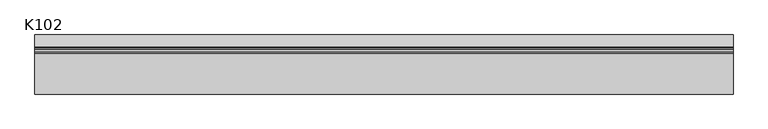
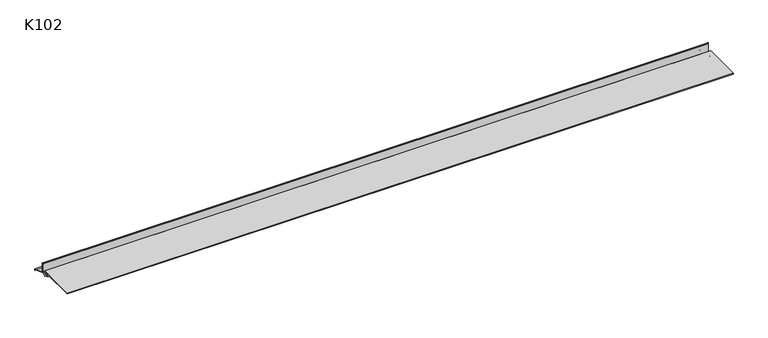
"""IFC4 building model written with IfcOpenShell, lengths in millimetres: proxy geometry, K102 Profil okapowy prosty : K102."""

import ifcopenshell
import ifcopenshell.guid

model = None  # the IFC model being written
_history = None  # IfcOwnerHistory: only IFC2X3 demands one
_inside = {}  # id of a spatial element -> (the spatial element, [elements in it])
_under = {}  # id of a project, library or spatial element -> (it, [spatial elements below it])
_declared = {}  # id of a project -> (the project, [libraries it declares])
_typed = {}  # id of a type object -> (the type object, [elements of that type])
_made_of = {}  # id of a material, layer set ... -> (it, [elements and type objects made of it])


def new_model(schema):
    """Start an empty IFC model of exactly this schema.

    Asked for "IFC4X3", IfcOpenShell would pick the latest addendum, in which some entities
    have other attributes; the version numbers below select the first issue.
    IFC2X3 requires an IfcOwnerHistory on every rooted entity: one is made here for all.
    """
    global model, _history
    if schema == "IFC4X3":
        model = ifcopenshell.file(schema_version=(4, 3, 0, 0))
    else:
        model = ifcopenshell.file(schema=schema)
    _inside.clear()
    _under.clear()
    _declared.clear()
    _typed.clear()
    _made_of.clear()
    _history = None
    if model.schema == "IFC2X3":
        org = make("IfcOrganization", Name="unknown")
        user = make(
            "IfcPersonAndOrganization",
            ThePerson=make("IfcPerson", FamilyName="unknown"),
            TheOrganization=org,
        )
        app = make(
            "IfcApplication",
            ApplicationDeveloper=org,
            Version="unknown",
            ApplicationFullName="unknown",
            ApplicationIdentifier="unknown",
        )
        _history = make(
            "IfcOwnerHistory",
            OwningUser=user,
            OwningApplication=app,
            ChangeAction="ADDED",
            CreationDate=0,
        )
    return model


def make(cls, **values):
    """One entity of the class cls with the attributes given. An attribute that is None is left unset."""
    return model.create_entity(
        cls, **{name: value for name, value in values.items() if value is not None}
    )


def rooted(cls, **values):
    """An entity with a GlobalId (a new one), such as an element, a storey or a relation."""
    return make(cls, GlobalId=ifcopenshell.guid.new(), OwnerHistory=_history, **values)


def si_unit(unit_type, name, prefix=None):
    """IfcSIUnit, for example si_unit("LENGTHUNIT", "METRE", prefix="MILLI")."""
    return make("IfcSIUnit", UnitType=unit_type, Prefix=prefix, Name=name)


def assignment(units):
    """IfcUnitAssignment: the units of a project."""
    return None if units is None else make("IfcUnitAssignment", Units=units)


def point(xyz):
    """IfcCartesianPoint."""
    return None if xyz is None else make("IfcCartesianPoint", Coordinates=xyz)


def direction(xyz):
    """IfcDirection."""
    return None if xyz is None else make("IfcDirection", DirectionRatios=xyz)


def frame(location, z_axis=None, x_axis=None):
    """IfcAxis2Placement3D, a coordinate frame: its origin and axes. An axis left out is left unset."""
    return make(
        "IfcAxis2Placement3D",
        Location=point(location),
        Axis=direction(z_axis),
        RefDirection=direction(x_axis),
    )


def frame_2d(location, x_axis=None):
    """IfcAxis2Placement2D, a coordinate frame in the plane: its origin and x axis."""
    return make(
        "IfcAxis2Placement2D", Location=point(location), RefDirection=direction(x_axis)
    )


def origin():
    """The frame at (0, 0, 0) with its axes left unset."""
    return frame((0.0, 0.0, 0.0))


def place(relative_to, where):
    """IfcLocalPlacement: puts the frame where relative to a parent placement (None: the world)."""
    return make(
        "IfcLocalPlacement", PlacementRelTo=relative_to, RelativePlacement=where
    )


def context(
    kind, dimensions, precision=None, world=None, true_north=None, identifier=None
):
    """IfcGeometricRepresentationContext, for example the 3D "Model" context."""
    return make(
        "IfcGeometricRepresentationContext",
        ContextIdentifier=identifier,
        ContextType=kind,
        CoordinateSpaceDimension=dimensions,
        Precision=precision,
        WorldCoordinateSystem=world,
        TrueNorth=true_north,
    )


def project(units=None, contexts=None):
    """IfcProject with its units and contexts."""
    return rooted(
        "IfcProject",
        Name="project",
        RepresentationContexts=contexts,
        UnitsInContext=assignment(units),
    )


def spatial(cls, under=None, at=None, **own):
    """A site, building, storey or space (cls), placed at a placement, below another one or the project."""
    s = rooted(cls, ObjectPlacement=at, **own)
    if under is not None:
        _under.setdefault(under.id(), (under, []))[1].append(s)
    return s


def polyline(points):
    """IfcPolyline through the points."""
    return make("IfcPolyline", Points=[point(p) for p in points])


def circle_curve(where, radius):
    """IfcCircle in the frame where."""
    return make("IfcCircle", Position=where, Radius=radius)


def trimmed(basis, trim1, trim2, sense, master):
    """IfcTrimmedCurve: the piece of a basis curve between two trims."""
    return make(
        "IfcTrimmedCurve",
        BasisCurve=basis,
        Trim1=trim1,
        Trim2=trim2,
        SenseAgreement=sense,
        MasterRepresentation=master,
    )


def segment(curve, same_sense, transition):
    """IfcCompositeCurveSegment."""
    return make(
        "IfcCompositeCurveSegment",
        Transition=transition,
        SameSense=same_sense,
        ParentCurve=curve,
    )


def composite_curve(segments, self_intersect=None):
    """IfcCompositeCurve: segments joined end to end."""
    return make("IfcCompositeCurve", Segments=segments, SelfIntersect=self_intersect)


def outline(outer, holes=None, kind="AREA"):
    """IfcArbitraryClosedProfileDef: a profile drawn as a closed curve; with holes, ...WithVoids."""
    if holes is None:
        return make("IfcArbitraryClosedProfileDef", ProfileType=kind, OuterCurve=outer)
    return make(
        "IfcArbitraryProfileDefWithVoids",
        ProfileType=kind,
        OuterCurve=outer,
        InnerCurves=holes,
    )


def extrude(swept, where, along, depth):
    """IfcExtrudedAreaSolid: the profile swept, set in the frame where, extruded along a direction by depth."""
    return make(
        "IfcExtrudedAreaSolid",
        SweptArea=swept,
        Position=where,
        ExtrudedDirection=direction(along),
        Depth=depth,
    )


def shape(context_of_items, identifier, shape_type, items):
    """IfcShapeRepresentation: the items that make up one representation, for example the "Body"."""
    return make(
        "IfcShapeRepresentation",
        ContextOfItems=context_of_items,
        RepresentationIdentifier=identifier,
        RepresentationType=shape_type,
        Items=items,
    )


def source(mapping_origin, context_of_items, identifier, shape_type, items):
    """IfcRepresentationMap: a shape defined once, which mapped items show again and again."""
    return make(
        "IfcRepresentationMap",
        MappingOrigin=mapping_origin,
        MappedRepresentation=shape(context_of_items, identifier, shape_type, items),
    )


def transform(
    local_origin,
    x_axis=None,
    y_axis=None,
    z_axis=None,
    scale=None,
    scale2=None,
    scale3=None,
    uniform=True,
):
    """IfcCartesianTransformationOperator3D, or its non-uniform kind. x_axis, y_axis, z_axis: its Axis1, 2, 3."""
    if uniform:
        return make(
            "IfcCartesianTransformationOperator3D",
            Axis1=direction(x_axis),
            Axis2=direction(y_axis),
            LocalOrigin=point(local_origin),
            Scale=scale,
            Axis3=direction(z_axis),
        )
    return make(
        "IfcCartesianTransformationOperator3DnonUniform",
        Axis1=direction(x_axis),
        Axis2=direction(y_axis),
        LocalOrigin=point(local_origin),
        Scale=scale,
        Axis3=direction(z_axis),
        Scale2=scale2,
        Scale3=scale3,
    )


def mapped(mapping_source, mapping_target):
    """IfcMappedItem: shows the shape of a source again, moved by a transform."""
    return make(
        "IfcMappedItem", MappingSource=mapping_source, MappingTarget=mapping_target
    )


def made_of(thing, what):
    """Note that an element or type object is made of a material, layer set ...; save() writes the relation."""
    if what is not None:
        _made_of.setdefault(what.id(), (what, []))[1].append(thing)
    return thing


def element(
    cls,
    number,
    at=None,
    inside=None,
    cuts=None,
    type_object=None,
    material=None,
    context=None,
    identifier="Body",
    shape_type=None,
    held_by="IfcProductDefinitionShape",
    body=None,
    shapes=None,
    **own,
):
    """One element of the class cls, such as IfcWall. Its Tag is "e" and its number.

    at: its placement. inside: the storey or other place that contains it. cuts: it is an
    opening in that element (IfcRelVoidsElement). A single representation is given by context,
    identifier, shape_type and body (its items); several are given by shapes. held_by: the class
    of the entity that holds the representations. save() writes the other relations.
    """
    e = rooted(cls, Tag="e%d" % number, ObjectPlacement=at, **own)
    if body is not None:
        shapes = [shape(context, identifier, shape_type, body)]
    if shapes is not None:
        e.Representation = make(held_by, Representations=shapes)
    if inside is not None:
        _inside.setdefault(inside.id(), (inside, []))[1].append(e)
    if cuts is not None:
        rooted(
            "IfcRelVoidsElement", RelatingBuildingElement=cuts, RelatedOpeningElement=e
        )
    if type_object is not None:
        _typed.setdefault(type_object.id(), (type_object, []))[1].append(e)
    return made_of(e, material)


def aggregate(whole, parts):
    """IfcRelAggregates: a whole, such as a stair, and the parts it consists of."""
    return rooted("IfcRelAggregates", RelatingObject=whole, RelatedObjects=parts)


def save(model, path):
    """Write the relations noted so far, then the file.

    IfcRelAggregates (storeys below a building ...), IfcRelContainedInSpatialStructure (elements
    in a storey), IfcRelDefinesByType, IfcRelAssociatesMaterial and IfcRelDeclares: one each for
    every whole, place, type object, material and project.
    """
    for whole, parts in _under.values():
        aggregate(whole, parts)
    for where, things in _inside.values():
        rooted(
            "IfcRelContainedInSpatialStructure",
            RelatedElements=things,
            RelatingStructure=where,
        )
    for kind, things in _typed.values():
        rooted("IfcRelDefinesByType", RelatedObjects=things, RelatingType=kind)
    for what, things in _made_of.values():
        rooted("IfcRelAssociatesMaterial", RelatedObjects=things, RelatingMaterial=what)
    for by, libraries in _declared.values():
        rooted("IfcRelDeclares", RelatingContext=by, RelatedDefinitions=libraries)
    model.write(path)


def k102_157f2f9b(model_context):
    return source(origin(), model_context, "Body", "SweptSolid", [
        extrude(outline(composite_curve([segment(polyline([(24.4184871, -8.1422568), (48.0156424, -16.6377555), (48.0156424, -20.1158228), (46.9768941, -19.2442096), (46.9768941, -17.6744713), (22.2483616, -8.7716518), (13.3907012, -8.7716518), (13.3907012, -11.3441711), (12.351953, -10.4725578), (12.351953, -8.4421112), (4.8498824, -7.2270409), (4.8498824, -1.5004141), (-64.4, -1.5004141), (-64.4, 0.0), (13.4695704, 0.0), (15.3829039, -2.8366335), (14.2410772, -3.6068052), (12.7424491, -1.3849976), (6.3502965, -1.3849976), (6.3502965, -5.9503608), (14.5258906, -7.2712376), (21.4121459, -7.2712376), (21.4121459, 10.321213)]), True, "CONTINUOUS"), segment(trimmed(circle_curve(frame_2d((20.3156894, 10.321213)), 1.0964565), [point((21.4121459, 10.321213))], [point((20.5465224, 11.3930959))], True, "CARTESIAN"), True, "CONTINUOUS"), segment(polyline([(20.5465224, 11.3930959), (20.5465224, 12.7339418)]), True, "CONTINUOUS"), segment(trimmed(circle_curve(frame_2d((20.3156894, 10.321213)), 2.4237459), [point((20.5465224, 12.7339418))], [point((22.7394353, 10.321213))], False, "CARTESIAN"), True, "CONTINUOUS"), segment(polyline([(22.7394353, 10.321213), (22.7394353, -5.7532078)]), True, "CONTINUOUS"), segment(trimmed(circle_curve(frame_2d((25.2785977, -5.7532078)), 2.5391624), [point((22.7394353, -5.7532078))], [point((24.4184871, -8.1422568))], True, "CARTESIAN"), True, "CONTINUOUS")], self_intersect=False)), frame((0.0, 0.0, 0.0), z_axis=(1.0, 0.0, 0.0), x_axis=(0.0, 1.0, 0.0)), (0.0, 0.0, 1.0), 1326.8467699),
    ])


if __name__ == "__main__":
    model = new_model("IFC4")
    model_context = context("Model", 3, world=origin())
    ifc_project = project(units=[si_unit("LENGTHUNIT", "METRE", prefix="MILLI")], contexts=[model_context])
    site = spatial("IfcSite", under=ifc_project)
    building = spatial("IfcBuilding", under=site)
    placement = place(None, origin())
    k102_shape = k102_157f2f9b(model_context)
    element("IfcBuildingElementProxy", 1, Name="K102 Profil okapowy prosty : K102", ObjectType="K102 Profil okapowy prosty : K102", at=placement, inside=building, context=model_context, shape_type="MappedRepresentation", body=[
        mapped(k102_shape, transform((0.0, 0.0, 0.0), x_axis=(1.0, 0.0, 0.0), y_axis=(0.0, 1.0, 0.0), z_axis=(0.0, 0.0, 1.0))),
    ])
    save(model, "model.ifc")
